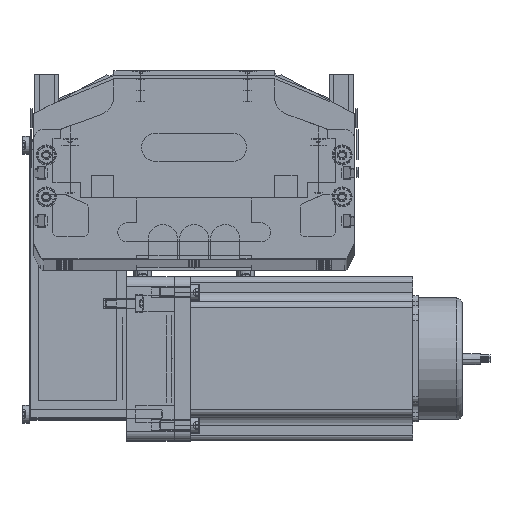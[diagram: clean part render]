
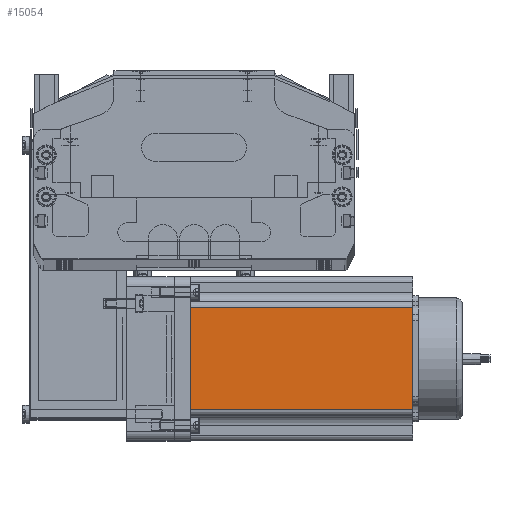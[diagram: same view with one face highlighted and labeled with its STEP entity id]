
A CAD part, top view. The second image highlights one B-rep face of the part: STEP entity #15054.
In plain terms, the highlighted planar face has unit normal (0, 0, 1) as drawn and (0, -1, 0) by its records, which use the part's own axes.
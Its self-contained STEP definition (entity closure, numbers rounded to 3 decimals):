
#15008 = EDGE_LOOP ( 'NONE', ( #15028, #15045, #15064, #15069 ) ) ;
#15013 = VERTEX_POINT ( 'NONE', #54587 ) ;
#15028 = ORIENTED_EDGE ( 'NONE', *, *, #15063, .T. ) ;
#15045 = ORIENTED_EDGE ( 'NONE', *, *, #15062, .T. ) ;
#15047 = EDGE_CURVE ( 'NONE', #15061, #15013, #54461, .T. ) ;
#15048 = VERTEX_POINT ( 'NONE', #54583 ) ;
#15052 = VERTEX_POINT ( 'NONE', #54582 ) ;
#15054 = ADVANCED_FACE ( 'NONE', ( #54456 ), #54457, .F. ) ;
#15061 = VERTEX_POINT ( 'NONE', #54454 ) ;
#15062 = EDGE_CURVE ( 'NONE', #15048, #15052, #54488, .T. ) ;
#15063 = EDGE_CURVE ( 'NONE', #15013, #15048, #54534, .T. ) ;
#15064 = ORIENTED_EDGE ( 'NONE', *, *, #15065, .F. ) ;
#15065 = EDGE_CURVE ( 'NONE', #15061, #15052, #54528, .T. ) ;
#15069 = ORIENTED_EDGE ( 'NONE', *, *, #15047, .T. ) ;
#54446 = DIRECTION ( 'NONE',  ( 0., 0., 1. ) ) ;
#54454 = CARTESIAN_POINT ( 'NONE',  ( 16.16, 0., 116.5 ) ) ;
#54456 = FACE_OUTER_BOUND ( 'NONE', #15008, .T. ) ;
#54457 = PLANE ( 'NONE',  #54570 ) ;
#54458 = DIRECTION ( 'NONE',  ( 0., 0., -1. ) ) ;
#54459 = VECTOR ( 'NONE', #54458, 1000. ) ;
#54461 = LINE ( 'NONE', #54567, #54459 ) ;
#54482 = DIRECTION ( 'NONE',  ( 0., 0., 1. ) ) ;
#54483 = VECTOR ( 'NONE', #54482, 1000. ) ;
#54484 = CARTESIAN_POINT ( 'NONE',  ( 69.74, 0., 116.5 ) ) ;
#54488 = LINE ( 'NONE', #54484, #54483 ) ;
#54525 = DIRECTION ( 'NONE',  ( 1., 0., 0. ) ) ;
#54526 = VECTOR ( 'NONE', #54525, 1000. ) ;
#54527 = CARTESIAN_POINT ( 'NONE',  ( 0., 0., 116.5 ) ) ;
#54528 = LINE ( 'NONE', #54527, #54526 ) ;
#54531 = DIRECTION ( 'NONE',  ( 1., 0., 0. ) ) ;
#54532 = VECTOR ( 'NONE', #54531, 1000. ) ;
#54533 = CARTESIAN_POINT ( 'NONE',  ( 0., 0., 0. ) ) ;
#54534 = LINE ( 'NONE', #54533, #54532 ) ;
#54567 = CARTESIAN_POINT ( 'NONE',  ( 16.16, 0., 116.5 ) ) ;
#54570 = AXIS2_PLACEMENT_3D ( 'NONE', #54576, #54575, #54446 ) ;
#54575 = DIRECTION ( 'NONE',  ( 0., 1., 0. ) ) ;
#54576 = CARTESIAN_POINT ( 'NONE',  ( 0., 0., 116.5 ) ) ;
#54582 = CARTESIAN_POINT ( 'NONE',  ( 69.74, 0., 116.5 ) ) ;
#54583 = CARTESIAN_POINT ( 'NONE',  ( 69.74, 0., 0. ) ) ;
#54587 = CARTESIAN_POINT ( 'NONE',  ( 16.16, 0., 0. ) ) ;
